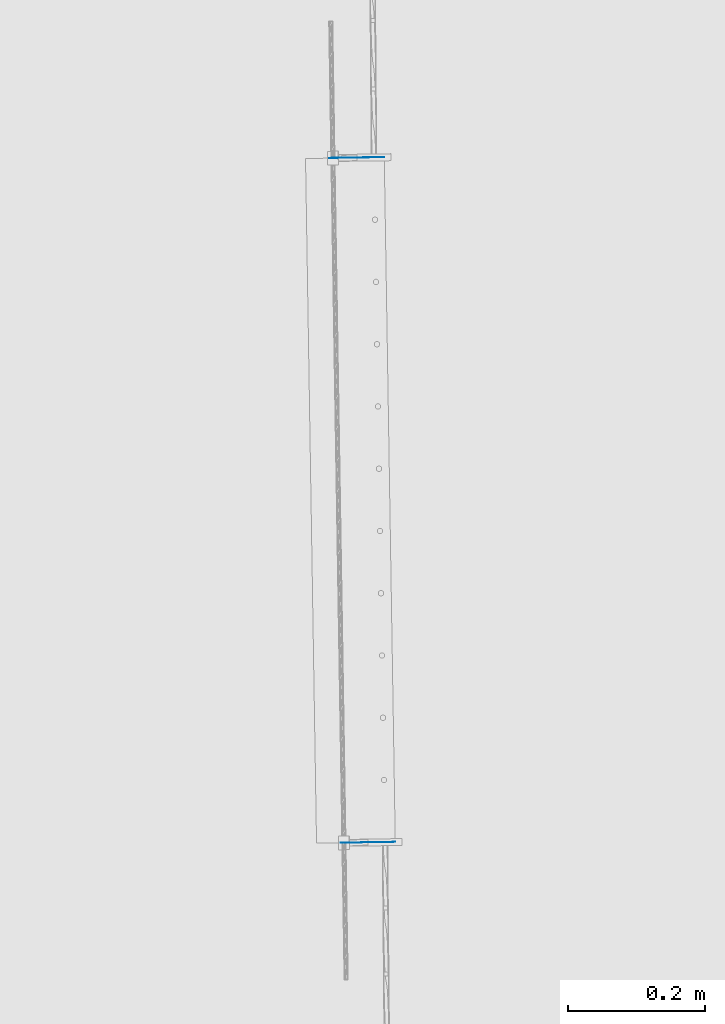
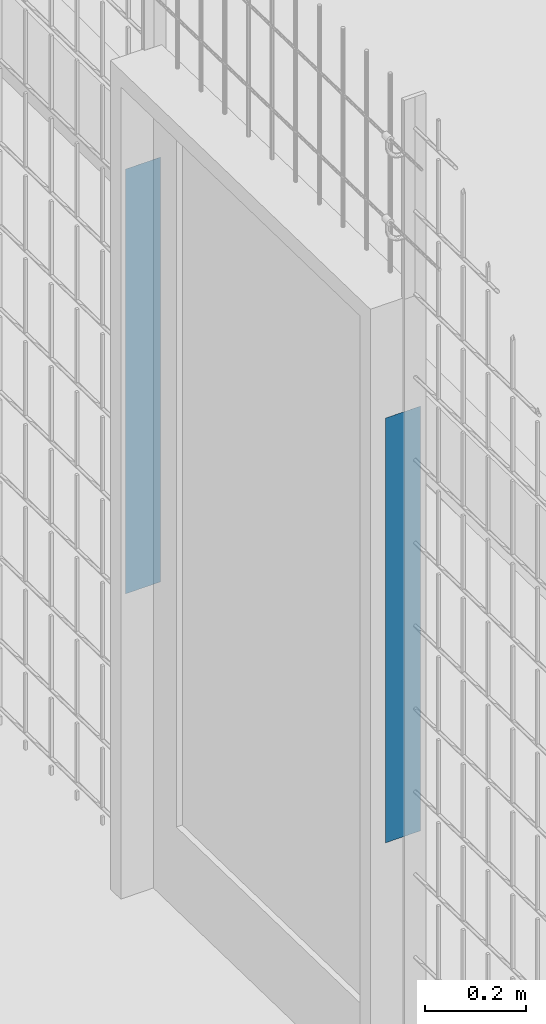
# One storey, part 2 of 1809: 1 wall, 1 opening.
"""IFC2X3 building model written with IfcOpenShell, lengths in millimetres."""

from ifc_helpers import new_model, entity, si_unit, converted_unit, derived_unit, money_unit, direction, frame, origin_with_axes, origin_2d_with_axis, place, context, subcontext, project, spatial, polyline, rectangle, outline, extrude, material, layer, layer_set, layer_usage, type_object, element, save


model = new_model("IFC2X3")

# Units and contexts
model_context = context("Model", 3, precision=0.01, world=origin_with_axes(), true_north=direction((0.0, 1.0)))
body_context = subcontext(model_context, "Body", "Model", "MODEL_VIEW")
ifc_project = project(units=[si_unit("LENGTHUNIT", "METRE", prefix="MILLI"), si_unit("AREAUNIT", "SQUARE_METRE"), si_unit("VOLUMEUNIT", "CUBIC_METRE"), converted_unit("PLANEANGLEUNIT", "DEGREE", entity("IfcPlaneAngleMeasure", 0.0174532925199), si_unit("PLANEANGLEUNIT", "RADIAN"), dimensions=[0, 0, 0, 0, 0, 0, 0]), si_unit("SOLIDANGLEUNIT", "STERADIAN"), money_unit("EUR"), converted_unit("TIMEUNIT", "Year", entity("IfcTimeMeasure", 31556926.0), si_unit("TIMEUNIT", "SECOND"), dimensions=[0, 0, 1, 0, 0, 0, 0]), si_unit("MASSUNIT", "GRAM", prefix="KILO"), si_unit("THERMODYNAMICTEMPERATUREUNIT", "DEGREE_CELSIUS"), si_unit("LUMINOUSINTENSITYUNIT", "LUMEN"), si_unit("ENERGYUNIT", "JOULE", prefix="MEGA"), derived_unit("THERMALCONDUCTANCEUNIT", [(si_unit("POWERUNIT", "WATT"), 1), (si_unit("LENGTHUNIT", "METRE"), -1), (si_unit("THERMODYNAMICTEMPERATUREUNIT", "KELVIN"), -1)]), derived_unit("SPECIFICHEATCAPACITYUNIT", [(si_unit("ENERGYUNIT", "JOULE"), 1), (si_unit("MASSUNIT", "GRAM", prefix="KILO"), -1), (si_unit("THERMODYNAMICTEMPERATUREUNIT", "KELVIN"), -1)]), derived_unit("MASSDENSITYUNIT", [(si_unit("MASSUNIT", "GRAM", prefix="KILO"), 1), (si_unit("VOLUMEUNIT", "CUBIC_METRE"), -1)])], contexts=[model_context])

# Site, building, storey
site_placement = place(None, origin_with_axes())
site = spatial("IfcSite", under=ifc_project, at=site_placement, Name="Politse- ja Piirivalveameti ning Päästeameti ühishoone", CompositionType="ELEMENT")
building_placement = place(site_placement, origin_with_axes())
building = spatial("IfcBuilding", under=site, at=building_placement, Name="Politse- ja Piirivalveameti ning Päästeameti ühishoone", CompositionType="ELEMENT")
storey_placement = place(building_placement, origin_with_axes())
storey = spatial("IfcBuildingStorey", under=building, at=storey_placement, Name="Esimene korrus", CompositionType="ELEMENT", Elevation=0.0)

# Wall, opening
ifc_material = material(Name="KON-00_GENEERILINE - KONSTRUKTSIOON")
ifc_layer = layer(ifc_material, 80.0, ventilated="UNKNOWN")
ifc_layer_set = layer_set([ifc_layer], Name="KON-00_GENEERILINE - KONSTRUKTSIOON 80")
ifc_layer_usage = layer_usage(ifc_layer_set, "AXIS2", "POSITIVE", -40.0)
wall_type = type_object("IfcWallType", Name="KON-00_GENEERILINE - KONSTRUKTSIOON 80", PredefinedType="NOTDEFINED")
wall_placement = place(storey_placement, frame((-16711.4684256, 17109.1850623, 700.0), z_axis=(0.0, 0.0, 1.0), x_axis=(0.0160835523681, -0.999870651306, 0.0)))
wall = element("IfcWallStandardCase", 1, at=wall_placement, inside=storey, type_object=wall_type, material=ifc_layer_usage, Name="Välissein", context=body_context, shape_type="SweptSolid", body=[
    extrude(outline(polyline([(0.0, -40.0), (1000.2366672, -40.0), (1000.2366672, 40.0), (0.0, 40.0), (0.0, -40.0)])), origin_with_axes(), (0.0, 0.0, 1.0), 1025.00507935),
])
opening_placement = place(wall_placement, frame((500.179735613, 0.0, -700.0), z_axis=(0.0, 0.0, 1.0), x_axis=(1.0, 0.0, 0.0)))
element("IfcOpeningElement", 2, at=opening_placement, cuts=wall, Name="JALGV2RAV", context=body_context, shape_type="SweptSolid", body=[
    extrude(rectangle(XDim=1000.0, YDim=2000.0, at=origin_2d_with_axis()), frame((0.0, -80.0, 1000.0), z_axis=(0.0, 1.0, 0.0), x_axis=(1.0, 0.0, 0.0)), (0.0, 0.0, 1.0), 240.0),
])

save(model, "model.ifc")
